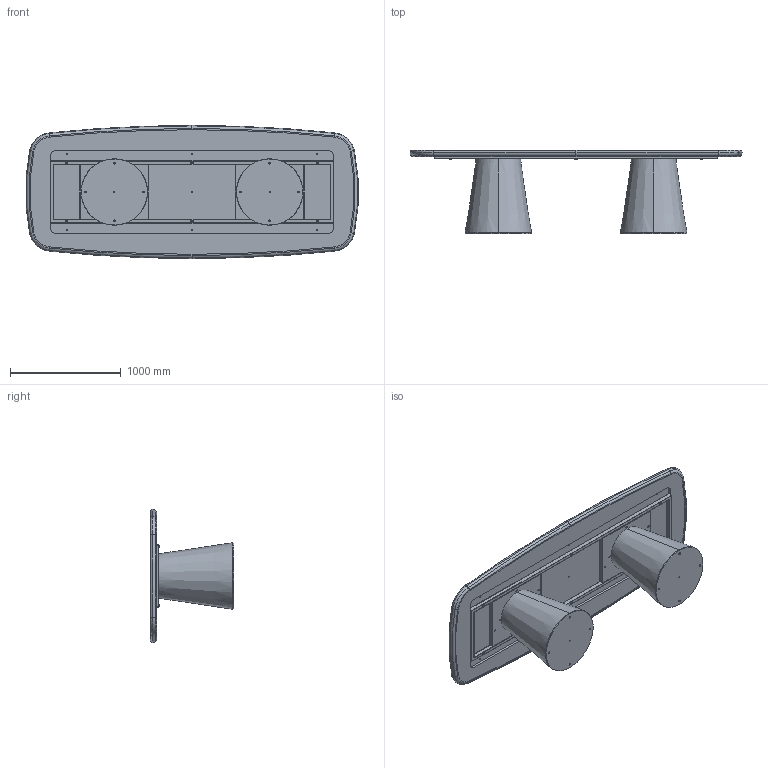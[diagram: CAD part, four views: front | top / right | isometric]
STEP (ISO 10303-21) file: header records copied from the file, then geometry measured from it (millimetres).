
FILE_DESCRIPTION (( 'STEP AP203' ), '1' );
FILE_NAME ('TO44K_Teo_300x120_King Shaped.STEP', '2024-08-02T09:40:00', ( '' ), ( '' ), 'SwSTEP 2.0', 'SolidWorks 2022', '' );
FILE_SCHEMA (( 'CONFIG_CONTROL_DESIGN' ));
Length unit declared in the file: millimetre
Products named in the file (14): M8xXXmm_M8x55mm; BASE TED LEGNO CON ZAVORRA; TO44K_Teo_300x120_King Shaped; TTAV03_01-06-RING TUBO TELAIO UNIVERSALE X TAVOLI 300-340cm; TTAV03-06-TELAIO UNIVERSALE X TAVOLI 300-340cm; K51-00-PIANO SOLO CERAMICA 297x116.7cm sag; TEO000000PIA-00-TEO PIASTRA DI BASE IN METALLO GREZZO; W51-01-PIANO KING BORDO 300X120 SAGOMATO LACCATO; TEO0000-00-TEO BASE LEGNO IMPIALLACCIATA LEVIGATO PRONTA X VERNICE; TTAV03_02-06-VASSOIO IRRIGIDIMENTO TELAIO UNIVERSALE RETTANGOLARE; COLLO TELAIO UNIVERSALE TTAV03 CON FERRAMENTA_MTG TOP LEGNO-MARMO-KING; rondella M8_8X24; ASSIEME PIANO+CERAMICA 300X120; M8xXXmm_hex_M8X20mm
Assembly tree (28 placements, depth 4):
  TO44K_Teo_300x120_King Shaped
    BASE TED LEGNO CON ZAVORRA  x2
      TEO000000PIA-00-TEO PIASTRA DI BASE IN METALLO GREZZO
      TEO0000-00-TEO BASE LEGNO IMPIALLACCIATA LEVIGATO PRONTA X VERNICE
      M8xXXmm_hex_M8X20mm
    COLLO TELAIO UNIVERSALE TTAV03 CON FERRAMENTA_MTG TOP LEGNO-MARMO-KING
      TTAV03-06-TELAIO UNIVERSALE X TAVOLI 300-340cm
        TTAV03_01-06-RING TUBO TELAIO UNIVERSALE X TAVOLI 300-340cm
        TTAV03_02-06-VASSOIO IRRIGIDIMENTO TELAIO UNIVERSALE RETTANGOLARE  x2
      rondella M8_8X24  x6
      M8xXXmm_M8x55mm  x6
    ASSIEME PIANO+CERAMICA 300X120
      W51-01-PIANO KING BORDO 300X120 SAGOMATO LACCATO
      K51-00-PIANO SOLO CERAMICA 297x116.7cm sag
Bounding box: 2991.72 x 749.19 x 1200 mm (x, y, z)
Volume: 206324590.9 mm3; surface area: 23319213.3 mm2
Topology: 29 solids, 29 shells, 1197 faces, 2738 edges, 1567 vertices
Faces by surface type: plane 502, cylinder 345, cone 204, torus 138, sphere 8
Entity records: 17487 total; most frequent: DIRECTION 2949, CARTESIAN_POINT 2676, ORIENTED_EDGE 2508, EDGE_CURVE 1254, AXIS2_PLACEMENT_3D 1149, VERTEX_POINT 758, EDGE_LOOP 660, VECTOR 651
